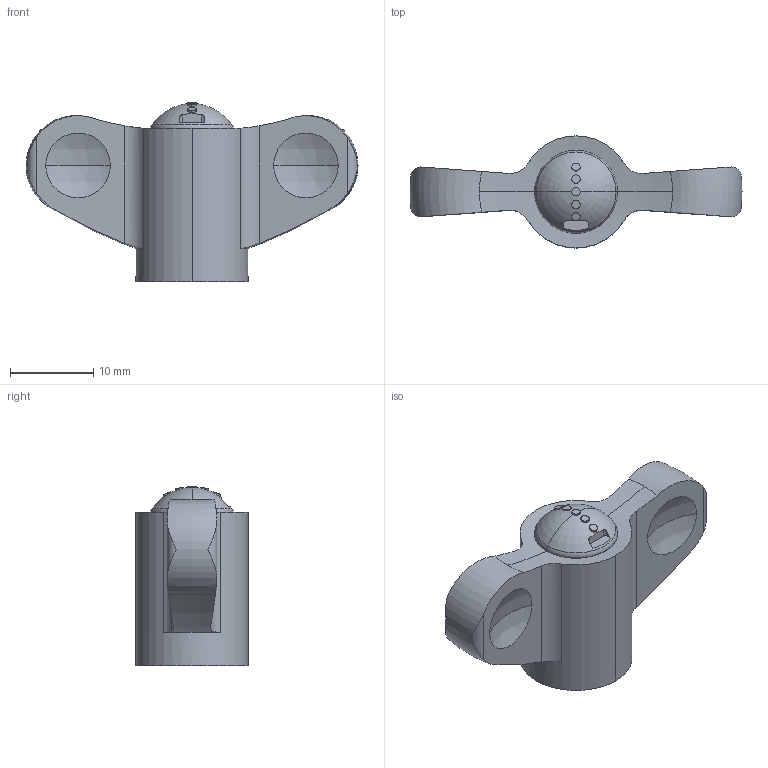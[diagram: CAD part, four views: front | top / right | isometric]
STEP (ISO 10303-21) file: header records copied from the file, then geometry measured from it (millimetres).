
FILE_DESCRIPTION (( 'STEP AP203' ), '1' );
FILE_NAME ('ewn40a-sus-sa-cl.STEP', '2021-10-25T02:12:32', ( '' ), ( '' ), 'SwSTEP 2.0', 'SolidWorks 2020', '' );
FILE_SCHEMA (( 'CONFIG_CONTROL_DESIGN' ));
Length unit declared in the file: millimetre
Products named in the file (1): ewn40a-sus-sa-cl
Bounding box: 40 x 13.5 x 21.6 mm (x, y, z)
Volume: 3547.7 mm3; surface area: 2490.9 mm2
Topology: 1 solids, 1 shells, 76 faces, 179 edges, 117 vertices
Faces by surface type: cylinder 36, plane 18, torus 12, sphere 10
Entity records: 2556 total; most frequent: CARTESIAN_POINT 736, DIRECTION 373, ORIENTED_EDGE 354, EDGE_CURVE 177, AXIS2_PLACEMENT_3D 164, VERTEX_POINT 117, EDGE_LOOP 90, CIRCLE 87
